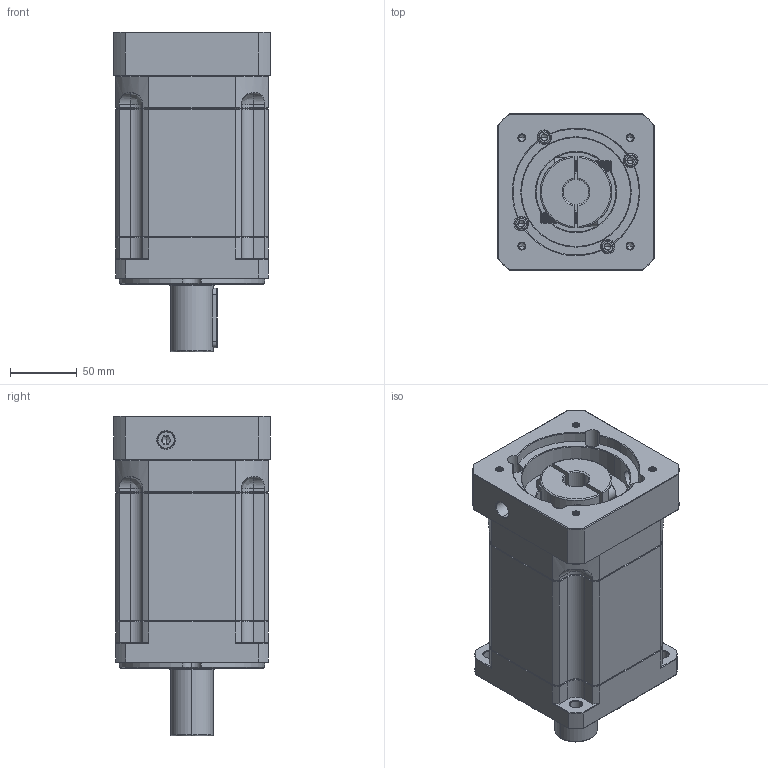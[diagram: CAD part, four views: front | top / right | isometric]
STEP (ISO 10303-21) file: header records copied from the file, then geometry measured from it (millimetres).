
FILE_DESCRIPTION (( 'STEP AP214' ), '1' );
FILE_NAME ('ZB115A-D32-L3-P2-19-95-115-M6.step', '2023-08-26T06:31:55', ( '' ), ( '' ), 'SwSTEP 2.0', 'SolidWorks 2016', '' );
FILE_SCHEMA (( 'AUTOMOTIVE_DESIGN' ));
Length unit declared in the file: millimetre
Products named in the file (1): ZB115A-D32-L3-P2-19-95-115-M6
Bounding box: 118 x 118 x 240.5 mm (x, y, z)
Volume: 2141280.1 mm3; surface area: 186797.2 mm2
Topology: 6 solids, 6 shells, 2383 faces, 6286 edges, 3999 vertices
Faces by surface type: plane 1144, bspline 443, cylinder 412, cone 384
Entity records: 126721 total; most frequent: CARTESIAN_POINT 45028, ORIENTED_EDGE 12504, DIRECTION 9949, EDGE_CURVE 6252, VERTEX_POINT 3999, VECTOR 3985, LINE 3985, AXIS2_PLACEMENT_3D 2982
